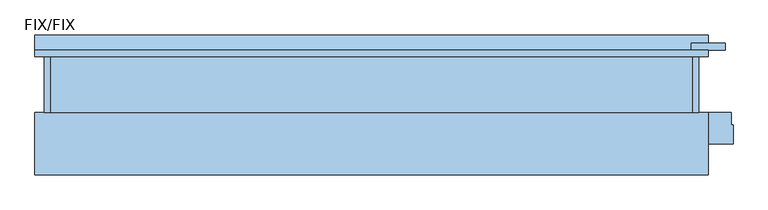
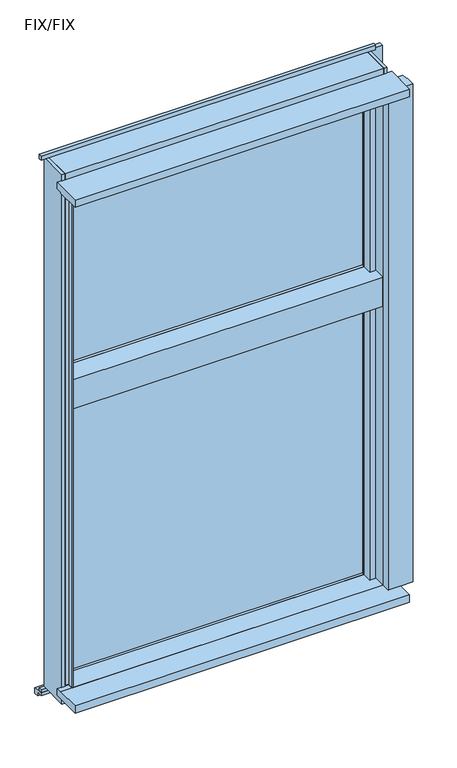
"""IFC4 building model written with IfcOpenShell, lengths in millimetres: window geometry, FNSⅡ100R_個別防火_ALC枠_段窓 : FIX/FIX."""

from ifc_helpers import new_model, si_unit, frame, origin, place, context, project, spatial, polyline, outline, extrude, faceted_brep, source, transform, mapped, element, save


def fix_fix_febf87ab(model_context):
    return source(origin(), model_context, "Body", "SolidModel", [
        extrude(outline(polyline([(-480.0, 55.6), (480.0, 55.6), (480.0, 49.6), (-480.0, 49.6), (-480.0, 55.6)])), frame((0.0, 0.0, 1950.0), z_axis=(0.0, 0.0, 1.0), x_axis=(1.0, 0.0, 0.0)), (0.0, 0.0, 1.0), 650.0),
        extrude(outline(polyline([(-480.0, 73.6), (480.0, 73.6), (480.0, 67.6), (-480.0, 67.6), (-480.0, 73.6)])), frame((0.0, 0.0, 1950.0), z_axis=(0.0, 0.0, 1.0), x_axis=(1.0, 0.0, 0.0)), (0.0, 0.0, 1.0), 650.0),
        extrude(outline(polyline([(-480.0, 55.6), (480.0, 55.6), (480.0, 49.6), (-480.0, 49.6), (-480.0, 55.6)])), frame((0.0, 0.0, 900.0), z_axis=(0.0, 0.0, 1.0), x_axis=(1.0, 0.0, 0.0)), (0.0, 0.0, 1.0), 950.0),
        extrude(outline(polyline([(-480.0, 73.6), (480.0, 73.6), (480.0, 67.6), (-480.0, 67.6), (-480.0, 73.6)])), frame((0.0, 0.0, 900.0), z_axis=(0.0, 0.0, 1.0), x_axis=(1.0, 0.0, 0.0)), (0.0, 0.0, 1.0), 950.0),
        faceted_brep([(-525.0, 90.0, 840.0), (-515.0, 90.0, 840.0), (-515.0, -10.0, 840.0), (-525.0, -10.0, 840.0), (-515.0, 90.0, 2645.0), (-515.0, -10.0, 2645.0), (-515.0, 90.0, 900.0), (-515.0, 40.0, 900.0), (-515.0, 40.0, 2600.0), (-515.0, 90.0, 2600.0), (-525.0, -10.0, 2645.0), (-480.0, 90.0, 900.0), (-480.0, 40.0, 900.0), (-480.0, 90.0, 2600.0), (-480.0, 40.0, 2600.0), (-525.0, 90.0, 2645.0)], [[[0, 1, 2, 3]], [[4, 5, 2, 1, 6, 7, 8, 9]], [[5, 10, 3, 2]], [[11, 12, 7, 6]], [[13, 14, 12, 11]], [[15, 10, 5, 4]], [[15, 4, 9, 13, 11, 6, 1, 0]], [[10, 15, 0, 3]], [[14, 8, 7, 12]], [[13, 9, 8, 14]]]),
        faceted_brep([(525.0, 90.0, 840.0), (525.0, -10.0, 840.0), (515.0, -10.0, 840.0), (515.0, 90.0, 840.0), (525.0, 90.0, 2645.0), (525.0, -10.0, 2645.0), (515.0, -10.0, 2645.0), (515.0, 90.0, 2645.0), (515.0, 90.0, 2600.0), (515.0, 40.0, 2600.0), (515.0, 40.0, 900.0), (515.0, 90.0, 900.0), (480.0, 40.0, 900.0), (480.0, 90.0, 900.0), (480.0, 90.0, 2600.0), (480.0, 40.0, 2600.0)], [[[0, 1, 2, 3]], [[4, 5, 1, 0]], [[6, 7, 8, 9, 10, 11, 3, 2]], [[10, 12, 13, 11]], [[4, 7, 6, 5]], [[5, 6, 2, 1]], [[7, 4, 0, 3, 11, 13, 14, 8]], [[15, 14, 13, 12]], [[9, 15, 12, 10]], [[8, 14, 15, 9]]]),
        extrude(outline(polyline([(500.0, -30.0), (500.0, 8.5), (480.0, 8.5), (480.0, 40.0), (515.0, 40.0), (515.0, -10.0), (503.0, -10.0), (503.0, -30.0), (500.0, -30.0)])), frame((0.0, 0.0, 900.0), z_axis=(0.0, 0.0, 1.0), x_axis=(1.0, 0.0, 0.0)), (0.0, 0.0, 1.0), 1700.0),
        extrude(outline(polyline([(-515.0, -10.0), (-515.0, 40.0), (-480.0, 40.0), (-480.0, 8.5), (-500.0, 8.5), (-500.0, -30.0), (-503.0, -30.0), (-503.0, -10.0), (-515.0, -10.0)])), frame((0.0, 0.0, 900.0), z_axis=(0.0, 0.0, 1.0), x_axis=(1.0, 0.0, 0.0)), (0.0, 0.0, 1.0), 1700.0),
        extrude(outline(polyline([(-10.0, 884.0), (-10.0, 897.0), (-30.0, 897.0), (-30.0, 900.0), (40.0, 900.0), (40.0, 884.0), (-10.0, 884.0)])), frame((-503.0, 0.0, 0.0), z_axis=(1.0, 0.0, 0.0), x_axis=(0.0, 1.0, 0.0)), (0.0, 0.0, 1.0), 1006.0),
        extrude(outline(polyline([(90.0, 840.0), (-10.0, 840.0), (-10.0, 884.0), (40.0, 884.0), (40.0, 900.0), (90.0, 900.0), (90.0, 870.0), (71.0, 870.0), (71.0, 850.0), (90.0, 850.0), (90.0, 840.0)])), frame((-515.0, 0.0, 0.0), z_axis=(1.0, 0.0, 0.0), x_axis=(0.0, 1.0, 0.0)), (0.0, 0.0, 1.0), 1030.0),
        extrude(outline(polyline([(40.0, 1936.0), (-10.0, 1936.0), (-10.0, 1865.0), (40.0, 1865.0), (40.0, 1850.0), (-30.0, 1850.0), (-30.0, 1950.0), (40.0, 1950.0), (40.0, 1936.0)])), frame((-500.0, 0.0, 0.0), z_axis=(1.0, 0.0, 0.0), x_axis=(0.0, 1.0, 0.0)), (0.0, 0.0, 1.0), 1000.0),
        extrude(outline(polyline([(90.0, 1850.0), (40.0, 1850.0), (40.0, 1865.0), (-10.0, 1865.0), (-10.0, 1936.0), (40.0, 1936.0), (40.0, 1950.0), (90.0, 1950.0), (90.0, 1920.0), (71.0, 1920.0), (71.0, 1904.0), (80.5, 1900.0), (90.0, 1900.0), (90.0, 1850.0)])), frame((-480.0, 0.0, 0.0), z_axis=(1.0, 0.0, 0.0), x_axis=(0.0, 1.0, 0.0)), (0.0, 0.0, 1.0), 960.0),
        extrude(outline(polyline([(40.0, 2600.0), (-30.0, 2600.0), (-30.0, 2603.0), (-10.0, 2603.0), (-10.0, 2615.0), (40.0, 2615.0), (40.0, 2600.0)])), frame((-503.0, 0.0, 0.0), z_axis=(1.0, 0.0, 0.0), x_axis=(0.0, 1.0, 0.0)), (0.0, 0.0, 1.0), 1006.0),
        extrude(outline(polyline([(90.0, 2600.0), (40.0, 2600.0), (40.0, 2615.0), (-10.0, 2615.0), (-10.0, 2645.0), (90.0, 2645.0), (90.0, 2600.0)])), frame((-515.0, 0.0, 0.0), z_axis=(1.0, 0.0, 0.0), x_axis=(0.0, 1.0, 0.0)), (0.0, 0.0, 1.0), 1030.0),
        extrude(outline(polyline([(-110.0, 900.0), (-30.0, 900.0), (-30.0, 897.0), (-10.0, 897.0), (-10.0, 875.0), (-110.0, 875.0), (-110.0, 900.0)])), frame((-540.0, 0.0, 0.0), z_axis=(1.0, 0.0, 0.0), x_axis=(0.0, 1.0, 0.0)), (0.0, 0.0, 1.0), 1080.0),
        extrude(outline(polyline([(-540.0, 80.0), (-540.0, 90.0), (540.0, 90.0), (540.0, 80.0), (-540.0, 80.0)])), frame((0.0, 0.0, 830.0), z_axis=(0.0, 0.0, 1.0), x_axis=(1.0, 0.0, 0.0)), (0.0, 0.0, 1.0), 10.0),
        extrude(outline(polyline([(100.0, 807.0), (100.0, 820.0), (80.0, 820.0), (80.0, 830.0), (90.0, 830.0), (115.0, 825.0), (115.0, 807.0), (100.0, 807.0)])), frame((-540.0, 0.0, 0.0), z_axis=(1.0, 0.0, 0.0), x_axis=(0.0, 1.0, 0.0)), (0.0, 0.0, 1.0), 1080.0),
        extrude(outline(polyline([(503.0, -30.0), (503.0, -10.0), (577.0, -10.0), (577.0, -30.0), (580.0, -30.0), (580.0, -60.0), (500.0, -60.0), (500.0, -30.0), (503.0, -30.0)])), frame((0.0, 0.0, 900.0), z_axis=(0.0, 0.0, 1.0), x_axis=(1.0, 0.0, 0.0)), (0.0, 0.0, 1.0), 1700.0),
        extrude(outline(polyline([(567.5, 90.0), (512.5, 90.0), (512.5, 102.0), (567.5, 102.0), (567.5, 90.0)])), frame((0.0, 0.0, 840.0), z_axis=(0.0, 0.0, 1.0), x_axis=(1.0, 0.0, 0.0)), (0.0, 0.0, 1.0), 1805.0),
        extrude(outline(polyline([(-110.0, 2625.0), (-10.0, 2625.0), (-10.0, 2603.0), (-30.0, 2603.0), (-30.0, 2600.0), (-110.0, 2600.0), (-110.0, 2625.0)])), frame((-540.0, 0.0, 0.0), z_axis=(1.0, 0.0, 0.0), x_axis=(0.0, 1.0, 0.0)), (0.0, 0.0, 1.0), 1080.0),
        extrude(outline(polyline([(-540.0, 80.0), (-540.0, 90.0), (540.0, 90.0), (540.0, 80.0), (-540.0, 80.0)])), frame((0.0, 0.0, 2645.0), z_axis=(0.0, 0.0, 1.0), x_axis=(1.0, 0.0, 0.0)), (0.0, 0.0, 1.0), 15.0),
    ])


if __name__ == "__main__":
    model = new_model("IFC4")
    model_context = context("Model", 3, world=origin())
    ifc_project = project(units=[si_unit("LENGTHUNIT", "METRE", prefix="MILLI")], contexts=[model_context])
    site = spatial("IfcSite", under=ifc_project)
    building = spatial("IfcBuilding", under=site)
    placement = place(None, origin())
    fix_fix_shape = fix_fix_febf87ab(model_context)
    element("IfcWindow", 1, ObjectType="FNSⅡ100R_個別防火_ALC枠_段窓 : FIX/FIX", at=placement, inside=building, context=model_context, shape_type="MappedRepresentation", body=[
        mapped(fix_fix_shape, transform((0.0, 0.0, 0.0), x_axis=(1.0, 0.0, 0.0), y_axis=(0.0, 1.0, 0.0), z_axis=(0.0, 0.0, 1.0))),
    ])
    save(model, "model.ifc")
